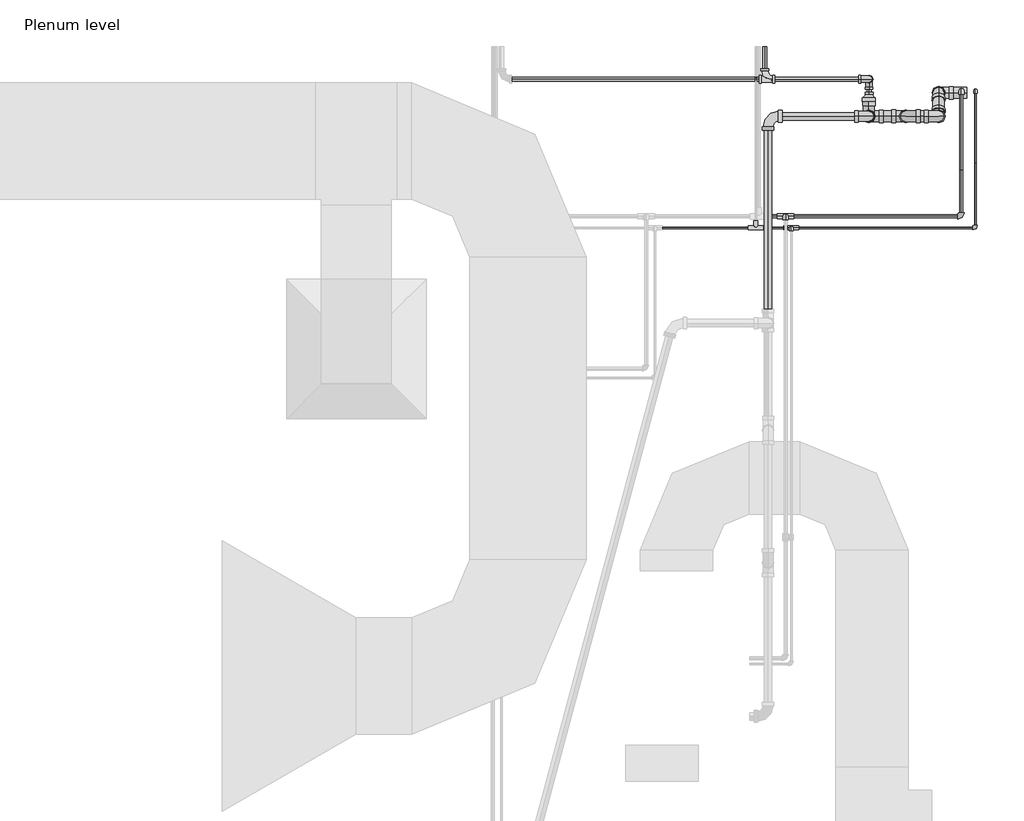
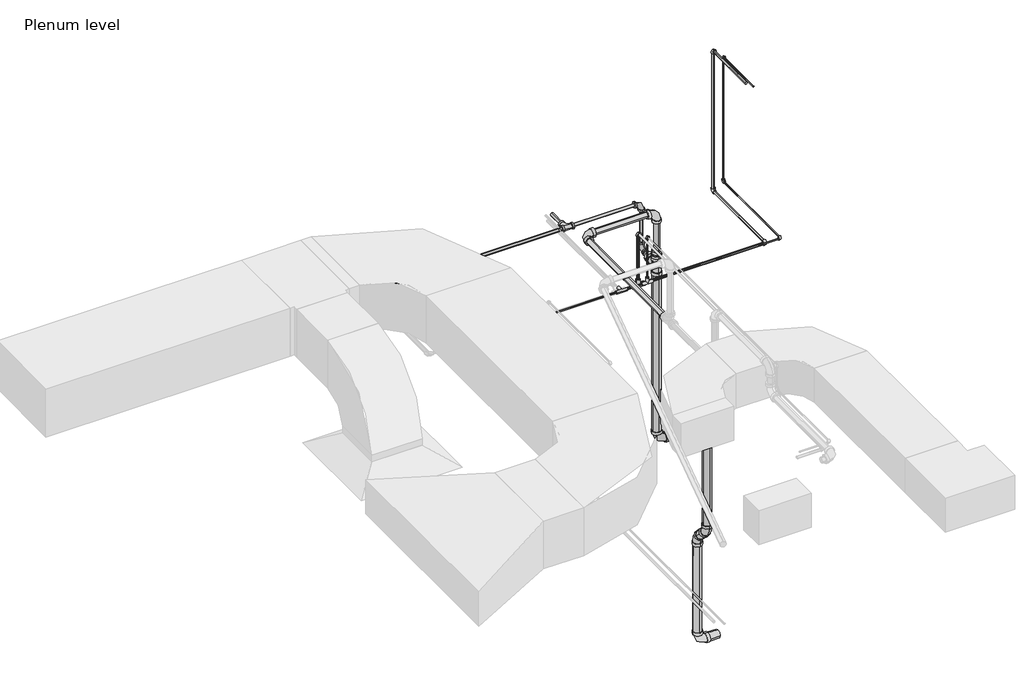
# One storey, part 5 of 5: 29 pipe segments, 26 pipe fittings.
"""IFC4 building model written with IfcOpenShell, lengths in millimetres."""

from ifc_helpers import new_model, si_unit, point, frame, frame_2d, origin, place, context, project, spatial, circle_curve, trimmed, segment, composite_curve, outline, extrude, transform, mapped, element, save
from components import m_bend_pvc_sch_40_dwv_standard_738aab8b, m_bend_pvc_sch_40_dwv_standard_a6d4ec87, m_bend_pvc_sch_40_dwv_standard_04e582cf, m_bend_pvc_sch_40_dwv_standard_6ab8a483, m_bend_pvc_sch_40_dwv_standard_2b68841f, m_bend_pvc_sch_40_dwv_standard_59f4505f, m_elbow_welded_generic_standard_3d1f096c, m_elbow_welded_generic_standard_8e0ccdf9, m_reducer_pvc_sch_40_dwv_standard_d6aa1886, m_reducer_pvc_sch_40_dwv_standard_bae070a7, m_tee_welded_generic_standard_d48cdf89, m_tee_welded_generic_standard_757b4df2, m_tee_sanitary_pvc_sch_40_dwv_standard_2f9d04e6, m_tee_sanitary_pvc_sch_40_dwv_standard_0d87e33f

model = new_model("IFC4")

# Units and contexts
model_context = context("Model", 3, world=origin())
ifc_project = project(units=[si_unit("LENGTHUNIT", "METRE", prefix="MILLI")], contexts=[model_context])

# Site, building, storey
site = spatial("IfcSite", under=ifc_project)
building = spatial("IfcBuilding", under=site)
storey = spatial("IfcBuildingStorey", under=building, Name="Plenum level", Elevation=2500.0)

# Pipe fittings
placement = place(None, origin())
m_bend_pvc_sch_40_dwv_standard_shape = m_bend_pvc_sch_40_dwv_standard_738aab8b(model_context)
element("IfcPipeFitting", 1, ObjectType="M_Bend - PVC - Sch 40 - DWV : Standard", at=placement, inside=storey, context=model_context, shape_type="MappedRepresentation", body=[
    mapped(m_bend_pvc_sch_40_dwv_standard_shape, transform((-9859.3605942, 544.5675672, 1220.3002), x_axis=(0.0, 0.0, -1.0), y_axis=(1.0, 0.0, 0.0), z_axis=(0.0, -1.0, 0.0))),
])
element("IfcPipeFitting", 2, ObjectType="M_Bend - PVC - Sch 40 - DWV : Standard", at=placement, inside=storey, context=model_context, shape_type="MappedRepresentation", body=[
    mapped(m_bend_pvc_sch_40_dwv_standard_shape, transform((-9699.3605942, 544.5675672, 1220.3002), x_axis=(1.0, 0.0, 0.0), y_axis=(0.0, 0.0, 1.0), z_axis=(0.0, -1.0, 0.0))),
])
element("IfcPipeFitting", 3, ObjectType="M_Bend - PVC - Sch 40 - DWV : Standard", at=placement, inside=storey, context=model_context, shape_type="MappedRepresentation", body=[
    mapped(m_bend_pvc_sch_40_dwv_standard_shape, transform((-9699.3605942, 544.5675672, 1520.3002), x_axis=(0.0, 0.0, 1.0), y_axis=(1.0, 0.0, 0.0), z_axis=(0.0, 1.0, 0.0))),
])
element("IfcPipeFitting", 4, ObjectType="M_Bend - PVC - Sch 40 - DWV : Standard", at=placement, inside=storey, context=model_context, shape_type="MappedRepresentation", body=[
    mapped(m_bend_pvc_sch_40_dwv_standard_shape, transform((-9559.3605942, 544.5675672, 1520.3002), x_axis=(1.0, 0.0, 0.0), y_axis=(0.0, 0.0, -1.0), z_axis=(0.0, 1.0, 0.0))),
])
m_bend_pvc_sch_40_dwv_standard_2_shape = m_bend_pvc_sch_40_dwv_standard_a6d4ec87(model_context)
element("IfcPipeFitting", 5, ObjectType="M_Bend - PVC - Sch 40 - DWV : Standard", at=placement, inside=storey, context=model_context, shape_type="MappedRepresentation", body=[
    mapped(m_bend_pvc_sch_40_dwv_standard_2_shape, transform((-9857.7733271, 704.5675761, 2607.2), x_axis=(1.0, 0.0, 0.0), y_axis=(0.0, 0.0, -1.0), z_axis=(0.0, 1.0, 0.0))),
])
element("IfcPipeFitting", 6, ObjectType="M_Bend - PVC - Sch 40 - DWV : Standard", at=placement, inside=storey, context=model_context, shape_type="MappedRepresentation", body=[
    mapped(m_bend_pvc_sch_40_dwv_standard_2_shape, transform((-9857.7733271, 704.5675761, 2322.2), x_axis=(0.0, 0.0, -1.0), y_axis=(0.0, -1.0, 0.0), z_axis=(-1.0, 0.0, 0.0))),
])
m_bend_pvc_sch_40_dwv_standard_3_shape = m_bend_pvc_sch_40_dwv_standard_04e582cf(model_context)
element("IfcPipeFitting", 7, ObjectType="M_Bend - PVC - Sch 40 - DWV : Standard", at=placement, inside=storey, context=model_context, shape_type="MappedRepresentation", body=[
    mapped(m_bend_pvc_sch_40_dwv_standard_3_shape, transform((-9859.3605942, 544.5675672, 2650.0), x_axis=(0.0, 0.0, 1.0), y_axis=(-1.0, 0.0, 0.0), z_axis=(0.0, -1.0, 0.0))),
])
element("IfcPipeFitting", 8, ObjectType="M_Bend - PVC - Sch 40 - DWV : Standard", at=placement, inside=storey, context=model_context, shape_type="MappedRepresentation", body=[
    mapped(m_bend_pvc_sch_40_dwv_standard_3_shape, transform((-10292.1201033, 544.5675672, 2650.0), x_axis=(-1.0, 0.0, 0.0), y_axis=(0.0, -1.0, 0.0), z_axis=(0.0, 0.0, 1.0))),
])
m_bend_pvc_sch_40_dwv_standard_4_shape = m_bend_pvc_sch_40_dwv_standard_6ab8a483(model_context)
element("IfcPipeFitting", 9, ObjectType="M_Bend - PVC - Sch 40 - DWV : Standard", at=placement, inside=storey, context=model_context, shape_type="MappedRepresentation", body=[
    mapped(m_bend_pvc_sch_40_dwv_standard_4_shape, transform((-9559.2948768, 544.5675672, 545.787891), x_axis=(7.201014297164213e-05, 0.0, -0.9999999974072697), y_axis=(0.001133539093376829, 0.9999993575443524, 8.162631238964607e-08), z_axis=(0.9999993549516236, -0.0011335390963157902, 7.201009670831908e-05))),
])
m_bend_pvc_sch_40_dwv_standard_5_shape = m_bend_pvc_sch_40_dwv_standard_2b68841f(model_context)
element("IfcPipeFitting", 10, ObjectType="M_Bend - PVC - Sch 40 - DWV : Standard", at=placement, inside=storey, context=model_context, shape_type="MappedRepresentation", body=[
    mapped(m_bend_pvc_sch_40_dwv_standard_5_shape, transform((-9559.1726284, 645.9722675, 444.3832644), x_axis=(0.0008524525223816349, 0.7071067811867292, -0.7071062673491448), y_axis=(0.0008524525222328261, -0.707106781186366, -0.7071062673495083), z_axis=(-0.9999992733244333, 0.0, -0.0012055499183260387))),
])
m_bend_pvc_sch_40_dwv_standard_6_shape = m_bend_pvc_sch_40_dwv_standard_59f4505f(model_context)
element("IfcPipeFitting", 11, ObjectType="M_Bend - PVC - Sch 40 - DWV : Standard", at=placement, inside=storey, context=model_context, shape_type="MappedRepresentation", body=[
    mapped(m_bend_pvc_sch_40_dwv_standard_6_shape, transform((-9558.3895365, 645.9722675, -205.1886237), x_axis=(-1.0, 0.0, 0.0), y_axis=(0.0, 0.0, 1.0), z_axis=(0.0, 1.0, 0.0))),
])
m_elbow_welded_generic_standard_shape = m_elbow_welded_generic_standard_3d1f096c(model_context)
element("IfcPipeFitting", 12, ObjectType="M_Elbow - Welded - Generic : Standard", at=placement, inside=storey, context=model_context, shape_type="MappedRepresentation", body=[
    mapped(m_elbow_welded_generic_standard_shape, transform((-10217.1201033, 114.5675672, 2900.0), x_axis=(0.0, 0.0, 1.0), y_axis=(0.0, -1.0, 0.0), z_axis=(1.0, 0.0, 0.0))),
])
element("IfcPipeFitting", 13, ObjectType="M_Elbow - Welded - Generic : Standard", at=placement, inside=storey, context=model_context, shape_type="MappedRepresentation", body=[
    mapped(m_elbow_welded_generic_standard_shape, transform((-9460.9171658, 114.5675672, 2575.4), x_axis=(1.0, 0.0, 0.0), y_axis=(0.0, 1.0, 0.0), z_axis=(0.0, 0.0, 1.0))),
])
element("IfcPipeFitting", 14, ObjectType="M_Elbow - Welded - Generic : Standard", at=placement, inside=storey, context=model_context, shape_type="MappedRepresentation", body=[
    mapped(m_elbow_welded_generic_standard_shape, transform((-9460.9171658, 654.5675672, 2575.4), x_axis=(0.0, 1.0, 0.0), y_axis=(0.0, 0.0, 1.0), z_axis=(1.0, 0.0, 0.0))),
])
element("IfcPipeFitting", 15, ObjectType="M_Elbow - Welded - Generic : Standard", at=placement, inside=storey, context=model_context, shape_type="MappedRepresentation", body=[
    mapped(m_elbow_welded_generic_standard_shape, transform((-9460.9171658, 654.5675672, 3455.4), x_axis=(0.0, 0.0, 1.0), y_axis=(0.0, -1.0, 0.0), z_axis=(1.0, 0.0, 0.0))),
])
m_elbow_welded_generic_standard_2_shape = m_elbow_welded_generic_standard_8e0ccdf9(model_context)
element("IfcPipeFitting", 16, ObjectType="M_Elbow - Welded - Generic : Standard", at=placement, inside=storey, context=model_context, shape_type="MappedRepresentation", body=[
    mapped(m_elbow_welded_generic_standard_2_shape, transform((-10192.1201033, 64.5675672, 2900.0), x_axis=(0.0, 0.0, 1.0), y_axis=(0.0, -1.0, 0.0), z_axis=(1.0, 0.0, 0.0))),
])
element("IfcPipeFitting", 17, ObjectType="M_Elbow - Welded - Generic : Standard", at=placement, inside=storey, context=model_context, shape_type="MappedRepresentation", body=[
    mapped(m_elbow_welded_generic_standard_2_shape, transform((-9400.3901658, 64.5675672, 2613.5), x_axis=(1.0, 0.0, 0.0), y_axis=(0.0, 1.0, 0.0), z_axis=(0.0, 0.0, 1.0))),
])
element("IfcPipeFitting", 18, ObjectType="M_Elbow - Welded - Generic : Standard", at=placement, inside=storey, context=model_context, shape_type="MappedRepresentation", body=[
    mapped(m_elbow_welded_generic_standard_2_shape, transform((-9400.3901658, 654.5675672, 2613.5), x_axis=(0.0, 1.0, 0.0), y_axis=(0.0, 0.0, 1.0), z_axis=(1.0, 0.0, 0.0))),
])
element("IfcPipeFitting", 19, ObjectType="M_Elbow - Welded - Generic : Standard", at=placement, inside=storey, context=model_context, shape_type="MappedRepresentation", body=[
    mapped(m_elbow_welded_generic_standard_2_shape, transform((-9400.3901658, 654.5675672, 3393.5), x_axis=(0.0, 0.0, 1.0), y_axis=(0.0, -1.0, 0.0), z_axis=(1.0, 0.0, 0.0))),
])
m_reducer_pvc_sch_40_dwv_standard_shape = m_reducer_pvc_sch_40_dwv_standard_d6aa1886(model_context)
element("IfcPipeFitting", 20, ObjectType="M_Reducer - PVC - Sch 40 - DWV : Standard", at=placement, inside=storey, context=model_context, shape_type="MappedRepresentation", body=[
    mapped(m_reducer_pvc_sch_40_dwv_standard_shape, transform((-9859.3605942, 544.5675672, 2365.0498), x_axis=(0.0, 0.0, 1.0), y_axis=(0.0, -1.0, 0.0), z_axis=(1.0, 0.0, 0.0))),
])
m_reducer_pvc_sch_40_dwv_standard_2_shape = m_reducer_pvc_sch_40_dwv_standard_bae070a7(model_context)
element("IfcPipeFitting", 21, ObjectType="M_Reducer - PVC - Sch 40 - DWV : Standard", at=placement, inside=storey, context=model_context, shape_type="MappedRepresentation", body=[
    mapped(m_reducer_pvc_sch_40_dwv_standard_2_shape, transform((-9859.3605942, 606.4673672, 2322.2), x_axis=(0.0, 1.0, 0.0), y_axis=(-1.0, 0.0, 0.0), z_axis=(0.0, 0.0, 1.0))),
])
m_tee_welded_generic_standard_shape = m_tee_welded_generic_standard_d48cdf89(model_context)
element("IfcPipeFitting", 22, ObjectType="M_Tee - Welded - Generic : Standard", at=placement, inside=storey, context=model_context, shape_type="MappedRepresentation", body=[
    mapped(m_tee_welded_generic_standard_shape, transform((-10217.1201033, 114.5675672, 2575.4), x_axis=(-1.0, 0.0, 0.0), y_axis=(0.0, 0.0, -1.0), z_axis=(0.0, -1.0, 0.0))),
])
m_tee_welded_generic_standard_2_shape = m_tee_welded_generic_standard_757b4df2(model_context)
element("IfcPipeFitting", 23, ObjectType="M_Tee - Welded - Generic : Standard", at=placement, inside=storey, context=model_context, shape_type="MappedRepresentation", body=[
    mapped(m_tee_welded_generic_standard_2_shape, transform((-10344.7873896, 64.5675672, 2613.5), x_axis=(-1.0, 0.0, 0.0), y_axis=(0.0, -1.0, 0.0), z_axis=(0.0, 0.0, 1.0))),
])
element("IfcPipeFitting", 24, ObjectType="M_Tee - Welded - Generic : Standard", at=placement, inside=storey, context=model_context, shape_type="MappedRepresentation", body=[
    mapped(m_tee_welded_generic_standard_2_shape, transform((-10192.1201033, 64.5675672, 2613.5), x_axis=(-1.0, 0.0, 0.0), y_axis=(0.0, 0.0, -1.0), z_axis=(0.0, -1.0, 0.0))),
])
m_tee_sanitary_pvc_sch_40_dwv_standard_shape = m_tee_sanitary_pvc_sch_40_dwv_standard_2f9d04e6(model_context)
element("IfcPipeFitting", 25, ObjectType="M_Tee Sanitary - PVC - Sch 40 - DWV : Standard", at=placement, inside=storey, context=model_context, shape_type="MappedRepresentation", body=[
    mapped(m_tee_sanitary_pvc_sch_40_dwv_standard_shape, transform((-10306.6873896, 704.5675761, 2607.2), x_axis=(-1.0, 0.0, 0.0), y_axis=(0.0, -1.0, 0.0), z_axis=(0.0, 0.0, 1.0))),
])
m_tee_sanitary_pvc_sch_40_dwv_standard_2_shape = m_tee_sanitary_pvc_sch_40_dwv_standard_0d87e33f(model_context)
element("IfcPipeFitting", 26, ObjectType="M_Tee Sanitary - PVC - Sch 40 - DWV : Standard", at=placement, inside=storey, context=model_context, shape_type="MappedRepresentation", body=[
    mapped(m_tee_sanitary_pvc_sch_40_dwv_standard_2_shape, transform((-9859.3605942, 544.5675672, 2322.2), x_axis=(0.0, 0.0, 1.0), y_axis=(0.0, -1.0, 0.0), z_axis=(1.0, 0.0, 0.0))),
])

# Pipe segments
element("IfcPipeSegment", 27, ObjectType="COPPER PIPE", at=placement, inside=storey, context=model_context, shape_type="SweptSolid", body=[
    extrude(outline(composite_curve([segment(trimmed(circle_curve(frame_2d((114.5675672, 2575.4)), 6.5), [point((108.0675672, 2575.4))], [point((114.5675672, 2581.9))], False, "CARTESIAN"), True, "CONTINUOUS"), segment(trimmed(circle_curve(frame_2d((114.5675672, 2575.4)), 6.5), [point((114.5675672, 2581.9))], [point((121.0675672, 2575.4))], False, "CARTESIAN"), True, "CONTINUOUS"), segment(trimmed(circle_curve(frame_2d((114.5675672, 2575.4)), 6.5), [point((121.0675672, 2575.4))], [point((114.5675672, 2568.9))], False, "CARTESIAN"), True, "CONTINUOUS"), segment(trimmed(circle_curve(frame_2d((114.5675672, 2575.4)), 6.5), [point((114.5675672, 2568.9))], [point((108.0675672, 2575.4))], False, "CARTESIAN"), True, "CONTINUOUS")], self_intersect=False)), frame((-10180.9171658, 0.0, 0.0), z_axis=(1.0, 0.0, 0.0), x_axis=(0.0, 1.0, 0.0)), (0.0, 0.0, 1.0), 705.2410156),
])
element("IfcPipeSegment", 28, ObjectType="COPPER PIPE", at=placement, inside=storey, context=model_context, shape_type="SweptSolid", body=[
    extrude(outline(composite_curve([segment(trimmed(circle_curve(frame_2d((64.5675672, 2613.5)), 3.5), [point((61.0675672, 2613.5))], [point((64.5675672, 2617.0))], False, "CARTESIAN"), True, "CONTINUOUS"), segment(trimmed(circle_curve(frame_2d((64.5675672, 2613.5)), 3.5), [point((64.5675672, 2617.0))], [point((68.0675672, 2613.5))], False, "CARTESIAN"), True, "CONTINUOUS"), segment(trimmed(circle_curve(frame_2d((64.5675672, 2613.5)), 3.5), [point((68.0675672, 2613.5))], [point((64.5675672, 2610.0))], False, "CARTESIAN"), True, "CONTINUOUS"), segment(trimmed(circle_curve(frame_2d((64.5675672, 2613.5)), 3.5), [point((64.5675672, 2610.0))], [point((61.0675672, 2613.5))], False, "CARTESIAN"), True, "CONTINUOUS")], self_intersect=False)), frame((-10160.3901658, 0.0, 0.0), z_axis=(1.0, 0.0, 0.0), x_axis=(0.0, 1.0, 0.0)), (0.0, 0.0, 1.0), 748.3910156),
])
element("IfcPipeSegment", 29, ObjectType="COPPER PIPE", at=placement, inside=storey, context=model_context, shape_type="SweptSolid", body=[
    extrude(outline(composite_curve([segment(trimmed(circle_curve(frame_2d((64.5675672, 2613.5)), 3.5), [point((61.0675672, 2613.5))], [point((64.5675672, 2617.0))], False, "CARTESIAN"), True, "CONTINUOUS"), segment(trimmed(circle_curve(frame_2d((64.5675672, 2613.5)), 3.5), [point((64.5675672, 2617.0))], [point((68.0675672, 2613.5))], False, "CARTESIAN"), True, "CONTINUOUS"), segment(trimmed(circle_curve(frame_2d((64.5675672, 2613.5)), 3.5), [point((68.0675672, 2613.5))], [point((64.5675672, 2610.0))], False, "CARTESIAN"), True, "CONTINUOUS"), segment(trimmed(circle_curve(frame_2d((64.5675672, 2613.5)), 3.5), [point((64.5675672, 2610.0))], [point((61.0675672, 2613.5))], False, "CARTESIAN"), True, "CONTINUOUS")], self_intersect=False)), frame((-10746.9574521, 0.0, 0.0), z_axis=(1.0, 0.0, 0.0), x_axis=(0.0, 1.0, 0.0)), (0.0, 0.0, 1.0), 370.440125),
])
element("IfcPipeSegment", 30, ObjectType="COPPER PIPE", at=placement, inside=storey, context=model_context, shape_type="SweptSolid", body=[
    extrude(outline(composite_curve([segment(trimmed(circle_curve(frame_2d((-10217.1201033, 114.5675672)), 6.5), [point((-10223.6201033, 114.5675672))], [point((-10217.1201033, 121.0675672))], False, "CARTESIAN"), True, "CONTINUOUS"), segment(trimmed(circle_curve(frame_2d((-10217.1201033, 114.5675672)), 6.5), [point((-10217.1201033, 121.0675672))], [point((-10210.6201033, 114.5675672))], False, "CARTESIAN"), True, "CONTINUOUS"), segment(trimmed(circle_curve(frame_2d((-10217.1201033, 114.5675672)), 6.5), [point((-10210.6201033, 114.5675672))], [point((-10217.1201033, 108.0675672))], False, "CARTESIAN"), True, "CONTINUOUS"), segment(trimmed(circle_curve(frame_2d((-10217.1201033, 114.5675672)), 6.5), [point((-10217.1201033, 108.0675672))], [point((-10223.6201033, 114.5675672))], False, "CARTESIAN"), True, "CONTINUOUS")], self_intersect=False)), frame((0.0, 0.0, 2611.6029375), z_axis=(0.0, 0.0, 1.0), x_axis=(1.0, 0.0, 0.0)), (0.0, 0.0, 1.0), 273.6380781),
])
element("IfcPipeSegment", 31, ObjectType="COPPER PIPE", at=placement, inside=storey, context=model_context, shape_type="SweptSolid", body=[
    extrude(outline(composite_curve([segment(trimmed(circle_curve(frame_2d((114.5675672, 2575.4)), 6.5), [point((108.0675672, 2575.4))], [point((114.5675672, 2581.9))], False, "CARTESIAN"), True, "CONTINUOUS"), segment(trimmed(circle_curve(frame_2d((114.5675672, 2575.4)), 6.5), [point((114.5675672, 2581.9))], [point((121.0675672, 2575.4))], False, "CARTESIAN"), True, "CONTINUOUS"), segment(trimmed(circle_curve(frame_2d((114.5675672, 2575.4)), 6.5), [point((121.0675672, 2575.4))], [point((114.5675672, 2568.9))], False, "CARTESIAN"), True, "CONTINUOUS"), segment(trimmed(circle_curve(frame_2d((114.5675672, 2575.4)), 6.5), [point((114.5675672, 2568.9))], [point((108.0675672, 2575.4))], False, "CARTESIAN"), True, "CONTINUOUS")], self_intersect=False)), frame((-10295.8844521, 0.0, 0.0), z_axis=(1.0, 0.0, 0.0), x_axis=(0.0, 1.0, 0.0)), (0.0, 0.0, 1.0), 42.5614113),
])
element("IfcPipeSegment", 32, ObjectType="COPPER PIPE", at=placement, inside=storey, context=model_context, shape_type="SweptSolid", body=[
    extrude(outline(composite_curve([segment(trimmed(circle_curve(frame_2d((-10192.1201033, 64.5675672)), 3.5), [point((-10195.6201033, 64.5675672))], [point((-10192.1201033, 68.0675672))], False, "CARTESIAN"), True, "CONTINUOUS"), segment(trimmed(circle_curve(frame_2d((-10192.1201033, 64.5675672)), 3.5), [point((-10192.1201033, 68.0675672))], [point((-10188.6201033, 64.5675672))], False, "CARTESIAN"), True, "CONTINUOUS"), segment(trimmed(circle_curve(frame_2d((-10192.1201033, 64.5675672)), 3.5), [point((-10188.6201033, 64.5675672))], [point((-10192.1201033, 61.0675672))], False, "CARTESIAN"), True, "CONTINUOUS"), segment(trimmed(circle_curve(frame_2d((-10192.1201033, 64.5675672)), 3.5), [point((-10192.1201033, 61.0675672))], [point((-10195.6201033, 64.5675672))], False, "CARTESIAN"), True, "CONTINUOUS")], self_intersect=False)), frame((0.0, 0.0, 2645.2299375), z_axis=(0.0, 0.0, 1.0), x_axis=(1.0, 0.0, 0.0)), (0.0, 0.0, 1.0), 243.1610781),
])
element("IfcPipeSegment", 33, ObjectType="COPPER PIPE", at=placement, inside=storey, context=model_context, shape_type="SweptSolid", body=[
    extrude(outline(composite_curve([segment(trimmed(circle_curve(frame_2d((64.5675672, 2613.5)), 3.5), [point((61.0675672, 2613.5))], [point((64.5675672, 2617.0))], False, "CARTESIAN"), True, "CONTINUOUS"), segment(trimmed(circle_curve(frame_2d((64.5675672, 2613.5)), 3.5), [point((64.5675672, 2617.0))], [point((68.0675672, 2613.5))], False, "CARTESIAN"), True, "CONTINUOUS"), segment(trimmed(circle_curve(frame_2d((64.5675672, 2613.5)), 3.5), [point((68.0675672, 2613.5))], [point((64.5675672, 2610.0))], False, "CARTESIAN"), True, "CONTINUOUS"), segment(trimmed(circle_curve(frame_2d((64.5675672, 2613.5)), 3.5), [point((64.5675672, 2610.0))], [point((61.0675672, 2613.5))], False, "CARTESIAN"), True, "CONTINUOUS")], self_intersect=False)), frame((-10313.0574521, 0.0, 0.0), z_axis=(1.0, 0.0, 0.0), x_axis=(0.0, 1.0, 0.0)), (0.0, 0.0, 1.0), 89.2074113),
])
element("IfcPipeSegment", 34, ObjectType="COPPER PIPE", at=placement, inside=storey, context=model_context, shape_type="SweptSolid", body=[
    extrude(outline(composite_curve([segment(trimmed(circle_curve(frame_2d((2575.4, -9460.9171658)), 6.5), [point((2575.4, -9454.4171658))], [point((2581.9, -9460.9171658))], False, "CARTESIAN"), True, "CONTINUOUS"), segment(trimmed(circle_curve(frame_2d((2575.4, -9460.9171658)), 6.5), [point((2581.9, -9460.9171658))], [point((2575.4, -9467.4171658))], False, "CARTESIAN"), True, "CONTINUOUS"), segment(trimmed(circle_curve(frame_2d((2575.4, -9460.9171658)), 6.5), [point((2575.4, -9467.4171658))], [point((2568.9, -9460.9171658))], False, "CARTESIAN"), True, "CONTINUOUS"), segment(trimmed(circle_curve(frame_2d((2575.4, -9460.9171658)), 6.5), [point((2568.9, -9460.9171658))], [point((2575.4, -9454.4171658))], False, "CARTESIAN"), True, "CONTINUOUS")], self_intersect=False)), frame((0.0, 129.3265516, 0.0), z_axis=(0.0, 1.0, 0.0), x_axis=(0.0, 0.0, 1.0)), (0.0, 0.0, 1.0), 510.4820313),
])
element("IfcPipeSegment", 35, ObjectType="COPPER PIPE", at=placement, inside=storey, context=model_context, shape_type="SweptSolid", body=[
    extrude(outline(composite_curve([segment(trimmed(circle_curve(frame_2d((2613.5, -9400.3901658)), 3.5), [point((2613.5, -9396.8901658))], [point((2617.0, -9400.3901658))], False, "CARTESIAN"), True, "CONTINUOUS"), segment(trimmed(circle_curve(frame_2d((2613.5, -9400.3901658)), 3.5), [point((2617.0, -9400.3901658))], [point((2613.5, -9403.8901658))], False, "CARTESIAN"), True, "CONTINUOUS"), segment(trimmed(circle_curve(frame_2d((2613.5, -9400.3901658)), 3.5), [point((2613.5, -9403.8901658))], [point((2610.0, -9400.3901658))], False, "CARTESIAN"), True, "CONTINUOUS"), segment(trimmed(circle_curve(frame_2d((2613.5, -9400.3901658)), 3.5), [point((2610.0, -9400.3901658))], [point((2613.5, -9396.8901658))], False, "CARTESIAN"), True, "CONTINUOUS")], self_intersect=False)), frame((0.0, 76.1765516, 0.0), z_axis=(0.0, 1.0, 0.0), x_axis=(0.0, 0.0, 1.0)), (0.0, 0.0, 1.0), 566.7820312),
])
element("IfcPipeSegment", 36, ObjectType="COPPER PIPE", at=placement, inside=storey, context=model_context, shape_type="SweptSolid", body=[
    extrude(outline(composite_curve([segment(trimmed(circle_curve(frame_2d((-9400.3901658, 654.5675672)), 3.5), [point((-9403.8901658, 654.5675672))], [point((-9400.3901658, 658.0675672))], False, "CARTESIAN"), True, "CONTINUOUS"), segment(trimmed(circle_curve(frame_2d((-9400.3901658, 654.5675672)), 3.5), [point((-9400.3901658, 658.0675672))], [point((-9396.8901658, 654.5675672))], False, "CARTESIAN"), True, "CONTINUOUS"), segment(trimmed(circle_curve(frame_2d((-9400.3901658, 654.5675672)), 3.5), [point((-9396.8901658, 654.5675672))], [point((-9400.3901658, 651.0675672))], False, "CARTESIAN"), True, "CONTINUOUS"), segment(trimmed(circle_curve(frame_2d((-9400.3901658, 654.5675672)), 3.5), [point((-9400.3901658, 651.0675672))], [point((-9403.8901658, 654.5675672))], False, "CARTESIAN"), True, "CONTINUOUS")], self_intersect=False)), frame((0.0, 0.0, 2625.1089844), z_axis=(0.0, 0.0, 1.0), x_axis=(1.0, 0.0, 0.0)), (0.0, 0.0, 1.0), 756.7820313),
])
element("IfcPipeSegment", 37, ObjectType="COPPER PIPE", at=placement, inside=storey, context=model_context, shape_type="SweptSolid", body=[
    extrude(outline(composite_curve([segment(trimmed(circle_curve(frame_2d((-9460.9171658, 654.5675672)), 6.5), [point((-9467.4171658, 654.5675672))], [point((-9460.9171658, 661.0675672))], False, "CARTESIAN"), True, "CONTINUOUS"), segment(trimmed(circle_curve(frame_2d((-9460.9171658, 654.5675672)), 6.5), [point((-9460.9171658, 661.0675672))], [point((-9454.4171658, 654.5675672))], False, "CARTESIAN"), True, "CONTINUOUS"), segment(trimmed(circle_curve(frame_2d((-9460.9171658, 654.5675672)), 6.5), [point((-9454.4171658, 654.5675672))], [point((-9460.9171658, 648.0675672))], False, "CARTESIAN"), True, "CONTINUOUS"), segment(trimmed(circle_curve(frame_2d((-9460.9171658, 654.5675672)), 6.5), [point((-9460.9171658, 648.0675672))], [point((-9467.4171658, 654.5675672))], False, "CARTESIAN"), True, "CONTINUOUS")], self_intersect=False)), frame((0.0, 0.0, 2590.1589844), z_axis=(0.0, 0.0, 1.0), x_axis=(1.0, 0.0, 0.0)), (0.0, 0.0, 1.0), 850.4820313),
])
element("IfcPipeSegment", 38, ObjectType="COPPER PIPE", at=placement, inside=storey, context=model_context, shape_type="SweptSolid", body=[
    extrude(outline(composite_curve([segment(trimmed(circle_curve(frame_2d((3455.4, -9460.9171658)), 6.5), [point((3455.4, -9467.4171658))], [point((3448.9, -9460.9171658))], False, "CARTESIAN"), True, "CONTINUOUS"), segment(trimmed(circle_curve(frame_2d((3455.4, -9460.9171658)), 6.5), [point((3448.9, -9460.9171658))], [point((3455.4, -9454.4171658))], False, "CARTESIAN"), True, "CONTINUOUS"), segment(trimmed(circle_curve(frame_2d((3455.4, -9460.9171658)), 6.5), [point((3455.4, -9454.4171658))], [point((3461.9, -9460.9171658))], False, "CARTESIAN"), True, "CONTINUOUS"), segment(trimmed(circle_curve(frame_2d((3455.4, -9460.9171658)), 6.5), [point((3461.9, -9460.9171658))], [point((3455.4, -9467.4171658))], False, "CARTESIAN"), True, "CONTINUOUS")], self_intersect=False)), frame((0.0, 314.5675672, 0.0), z_axis=(0.0, 1.0, 0.0), x_axis=(0.0, 0.0, 1.0)), (0.0, 0.0, 1.0), 325.2410156),
])
element("IfcPipeSegment", 39, ObjectType="COPPER PIPE", at=placement, inside=storey, context=model_context, shape_type="SweptSolid", body=[
    extrude(outline(composite_curve([segment(trimmed(circle_curve(frame_2d((3393.5, -9400.3901658)), 3.5), [point((3393.5, -9403.8901658))], [point((3390.0, -9400.3901658))], False, "CARTESIAN"), True, "CONTINUOUS"), segment(trimmed(circle_curve(frame_2d((3393.5, -9400.3901658)), 3.5), [point((3390.0, -9400.3901658))], [point((3393.5, -9396.8901658))], False, "CARTESIAN"), True, "CONTINUOUS"), segment(trimmed(circle_curve(frame_2d((3393.5, -9400.3901658)), 3.5), [point((3393.5, -9396.8901658))], [point((3397.0, -9400.3901658))], False, "CARTESIAN"), True, "CONTINUOUS"), segment(trimmed(circle_curve(frame_2d((3393.5, -9400.3901658)), 3.5), [point((3397.0, -9400.3901658))], [point((3393.5, -9403.8901658))], False, "CARTESIAN"), True, "CONTINUOUS")], self_intersect=False)), frame((0.0, 344.5675672, 0.0), z_axis=(0.0, 1.0, 0.0), x_axis=(0.0, 0.0, 1.0)), (0.0, 0.0, 1.0), 298.3910156),
])
element("IfcPipeSegment", 40, ObjectType="PVC - DWV", at=placement, inside=storey, context=model_context, shape_type="SweptSolid", body=[
    extrude(outline(composite_curve([segment(trimmed(circle_curve(frame_2d((0.0, -9.0)), 9.0), [point((0.0, 0.0))], [point((9.0, -9.0))], False, "CARTESIAN"), True, "CONTINUOUS"), segment(trimmed(circle_curve(frame_2d((0.0, -9.0)), 9.0), [point((9.0, -9.0))], [point((0.0, -18.0))], False, "CARTESIAN"), True, "CONTINUOUS"), segment(trimmed(circle_curve(frame_2d((0.0, -9.0)), 9.0), [point((0.0, -18.0))], [point((-9.0, -9.0))], False, "CARTESIAN"), True, "CONTINUOUS"), segment(trimmed(circle_curve(frame_2d((0.0, -9.0)), 9.0), [point((-9.0, -9.0))], [point((0.0, 0.0))], False, "CARTESIAN"), True, "CONTINUOUS")], self_intersect=False)), frame((-10315.6873896, 748.4816386, 2607.2), z_axis=(1.2633449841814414e-12, 1.0, 0.0), x_axis=(0.0, 0.0, -1.0)), (0.0, 0.0, 1.0), 96.0859286),
])
element("IfcPipeSegment", 41, ObjectType="PVC - DWV", at=placement, inside=storey, context=model_context, shape_type="SweptSolid", body=[
    extrude(outline(composite_curve([segment(trimmed(circle_curve(frame_2d((704.5675761, 2607.2)), 9.0), [point((695.5675761, 2607.2))], [point((704.5675761, 2616.2))], False, "CARTESIAN"), True, "CONTINUOUS"), segment(trimmed(circle_curve(frame_2d((704.5675761, 2607.2)), 9.0), [point((704.5675761, 2616.2))], [point((713.5675761, 2607.2))], False, "CARTESIAN"), True, "CONTINUOUS"), segment(trimmed(circle_curve(frame_2d((704.5675761, 2607.2)), 9.0), [point((713.5675761, 2607.2))], [point((704.5675761, 2598.2))], False, "CARTESIAN"), True, "CONTINUOUS"), segment(trimmed(circle_curve(frame_2d((704.5675761, 2607.2)), 9.0), [point((704.5675761, 2598.2))], [point((695.5675761, 2607.2))], False, "CARTESIAN"), True, "CONTINUOUS")], self_intersect=False)), frame((-11394.7733271, 0.0, 0.0), z_axis=(1.0, 0.0, 0.0), x_axis=(0.0, 1.0, 0.0)), (0.0, 0.0, 1.0), 1065.3453125),
])
element("IfcPipeSegment", 42, ObjectType="PVC - DWV", at=placement, inside=storey, context=model_context, shape_type="SweptSolid", body=[
    extrude(outline(composite_curve([segment(trimmed(circle_curve(frame_2d((2650.0, -10292.1201033)), 16.25), [point((2650.0, -10275.8701033))], [point((2666.25, -10292.1201033))], False, "CARTESIAN"), True, "CONTINUOUS"), segment(trimmed(circle_curve(frame_2d((2650.0, -10292.1201033)), 16.25), [point((2666.25, -10292.1201033))], [point((2650.0, -10308.3701033))], False, "CARTESIAN"), True, "CONTINUOUS"), segment(trimmed(circle_curve(frame_2d((2650.0, -10292.1201033)), 16.25), [point((2650.0, -10308.3701033))], [point((2633.75, -10292.1201033))], False, "CARTESIAN"), True, "CONTINUOUS"), segment(trimmed(circle_curve(frame_2d((2650.0, -10292.1201033)), 16.25), [point((2633.75, -10292.1201033))], [point((2650.0, -10275.8701033))], False, "CARTESIAN"), True, "CONTINUOUS")], self_intersect=False)), frame((0.0, -284.0093211, 0.0), z_axis=(0.0, 1.0, 0.0), x_axis=(0.0, 0.0, 1.0)), (0.0, 0.0, 1.0), 768.0748258),
])
element("IfcPipeSegment", 43, ObjectType="PVC - DWV", at=placement, inside=storey, context=model_context, shape_type="SweptSolid", body=[
    extrude(outline(composite_curve([segment(trimmed(circle_curve(frame_2d((544.5675672, 2650.0)), 16.25), [point((560.8175672, 2650.0))], [point((544.5675672, 2633.75))], False, "CARTESIAN"), True, "CONTINUOUS"), segment(trimmed(circle_curve(frame_2d((544.5675672, 2650.0)), 16.25), [point((544.5675672, 2633.75))], [point((528.3175672, 2650.0))], False, "CARTESIAN"), True, "CONTINUOUS"), segment(trimmed(circle_curve(frame_2d((544.5675672, 2650.0)), 16.25), [point((528.3175672, 2650.0))], [point((544.5675672, 2666.25))], False, "CARTESIAN"), True, "CONTINUOUS"), segment(trimmed(circle_curve(frame_2d((544.5675672, 2650.0)), 16.25), [point((544.5675672, 2666.25))], [point((560.8175672, 2650.0))], False, "CARTESIAN"), True, "CONTINUOUS")], self_intersect=False)), frame((-10231.6180408, 0.0, 0.0), z_axis=(1.0, 0.0, 0.0), x_axis=(0.0, 1.0, 0.0)), (0.0, 0.0, 1.0), 311.7553841),
])
element("IfcPipeSegment", 44, ObjectType="PVC - DWV", at=placement, inside=storey, context=model_context, shape_type="SweptSolid", body=[
    extrude(outline(composite_curve([segment(trimmed(circle_curve(frame_2d((704.5675761, 2607.2)), 9.0), [point((695.5675761, 2607.2))], [point((704.5675761, 2616.2))], False, "CARTESIAN"), True, "CONTINUOUS"), segment(trimmed(circle_curve(frame_2d((704.5675761, 2607.2)), 9.0), [point((704.5675761, 2616.2))], [point((713.5675761, 2607.2))], False, "CARTESIAN"), True, "CONTINUOUS"), segment(trimmed(circle_curve(frame_2d((704.5675761, 2607.2)), 9.0), [point((713.5675761, 2607.2))], [point((704.5675761, 2598.2))], False, "CARTESIAN"), True, "CONTINUOUS"), segment(trimmed(circle_curve(frame_2d((704.5675761, 2607.2)), 9.0), [point((704.5675761, 2598.2))], [point((695.5675761, 2607.2))], False, "CARTESIAN"), True, "CONTINUOUS")], self_intersect=False)), frame((-10262.7733271, 0.0, 0.0), z_axis=(1.0, 0.0, 0.0), x_axis=(0.0, 1.0, 0.0)), (0.0, 0.0, 1.0), 361.0859375),
])
element("IfcPipeSegment", 45, ObjectType="PVC - DWV", at=placement, inside=storey, context=model_context, shape_type="SweptSolid", body=[
    extrude(outline(composite_curve([segment(trimmed(circle_curve(frame_2d((-9859.3605942, 544.5675672)), 24.13), [point((-9835.2305942, 544.5675672))], [point((-9859.3605942, 520.4375672))], False, "CARTESIAN"), True, "CONTINUOUS"), segment(trimmed(circle_curve(frame_2d((-9859.3605942, 544.5675672)), 24.13), [point((-9859.3605942, 520.4375672))], [point((-9883.4905942, 544.5675672))], False, "CARTESIAN"), True, "CONTINUOUS"), segment(trimmed(circle_curve(frame_2d((-9859.3605942, 544.5675672)), 24.13), [point((-9883.4905942, 544.5675672))], [point((-9859.3605942, 568.6975672))], False, "CARTESIAN"), True, "CONTINUOUS"), segment(trimmed(circle_curve(frame_2d((-9859.3605942, 544.5675672)), 24.13), [point((-9859.3605942, 568.6975672))], [point((-9835.2305942, 544.5675672))], False, "CARTESIAN"), True, "CONTINUOUS")], self_intersect=False)), frame((0.0, 0.0, 1282.2), z_axis=(0.0, 0.0, 1.0), x_axis=(1.0, 0.0, 0.0)), (0.0, 0.0, 1.0), 978.1002),
])
element("IfcPipeSegment", 46, ObjectType="PVC - DWV", at=placement, inside=storey, context=model_context, shape_type="SweptSolid", body=[
    extrude(outline(composite_curve([segment(trimmed(circle_curve(frame_2d((-9857.7733271, 704.5675761)), 9.0), [point((-9848.7733271, 704.5675761))], [point((-9857.7733271, 695.5675761))], False, "CARTESIAN"), True, "CONTINUOUS"), segment(trimmed(circle_curve(frame_2d((-9857.7733271, 704.5675761)), 9.0), [point((-9857.7733271, 695.5675761))], [point((-9866.7733271, 704.5675761))], False, "CARTESIAN"), True, "CONTINUOUS"), segment(trimmed(circle_curve(frame_2d((-9857.7733271, 704.5675761)), 9.0), [point((-9866.7733271, 704.5675761))], [point((-9857.7733271, 713.5675761))], False, "CARTESIAN"), True, "CONTINUOUS"), segment(trimmed(circle_curve(frame_2d((-9857.7733271, 704.5675761)), 9.0), [point((-9857.7733271, 713.5675761))], [point((-9848.7733271, 704.5675761))], False, "CARTESIAN"), True, "CONTINUOUS")], self_intersect=False)), frame((0.0, 0.0, 2366.1140625), z_axis=(0.0, 0.0, 1.0), x_axis=(1.0, 0.0, 0.0)), (0.0, 0.0, 1.0), 197.171875),
])
element("IfcPipeSegment", 47, ObjectType="PVC - DWV", at=placement, inside=storey, context=model_context, shape_type="SweptSolid", body=[
    extrude(outline(composite_curve([segment(trimmed(circle_curve(frame_2d((2322.2, -9857.7733271)), 9.0), [point((2322.2, -9848.7733271))], [point((2331.2, -9857.7733271))], False, "CARTESIAN"), True, "CONTINUOUS"), segment(trimmed(circle_curve(frame_2d((2322.2, -9857.7733271)), 9.0), [point((2331.2, -9857.7733271))], [point((2322.2, -9866.7733271))], False, "CARTESIAN"), True, "CONTINUOUS"), segment(trimmed(circle_curve(frame_2d((2322.2, -9857.7733271)), 9.0), [point((2322.2, -9866.7733271))], [point((2313.2, -9857.7733271))], False, "CARTESIAN"), True, "CONTINUOUS"), segment(trimmed(circle_curve(frame_2d((2322.2, -9857.7733271)), 9.0), [point((2313.2, -9857.7733271))], [point((2322.2, -9848.7733271))], False, "CARTESIAN"), True, "CONTINUOUS")], self_intersect=False)), frame((0.0, 647.238461, 0.0), z_axis=(0.0, 1.0, 0.0), x_axis=(0.0, 0.0, 1.0)), (0.0, 0.0, 1.0), 13.4150527),
])
element("IfcPipeSegment", 48, ObjectType="PVC - DWV", at=placement, inside=storey, context=model_context, shape_type="SweptSolid", body=[
    extrude(outline(composite_curve([segment(trimmed(circle_curve(frame_2d((-9859.3605942, 544.5675672)), 16.25), [point((-9843.1105942, 544.5675672))], [point((-9859.3605942, 528.3175672))], False, "CARTESIAN"), True, "CONTINUOUS"), segment(trimmed(circle_curve(frame_2d((-9859.3605942, 544.5675672)), 16.25), [point((-9859.3605942, 528.3175672))], [point((-9875.6105942, 544.5675672))], False, "CARTESIAN"), True, "CONTINUOUS"), segment(trimmed(circle_curve(frame_2d((-9859.3605942, 544.5675672)), 16.25), [point((-9875.6105942, 544.5675672))], [point((-9859.3605942, 560.8175672))], False, "CARTESIAN"), True, "CONTINUOUS"), segment(trimmed(circle_curve(frame_2d((-9859.3605942, 544.5675672)), 16.25), [point((-9859.3605942, 560.8175672))], [point((-9843.1105942, 544.5675672))], False, "CARTESIAN"), True, "CONTINUOUS")], self_intersect=False)), frame((0.0, 0.0, 2407.6798938), z_axis=(0.0, 0.0, 1.0), x_axis=(1.0, 0.0, 0.0)), (0.0, 0.0, 1.0), 181.8180437),
])
element("IfcPipeSegment", 49, ObjectType="PVC - DWV", at=placement, inside=storey, context=model_context, shape_type="SweptSolid", body=[
    extrude(outline(composite_curve([segment(trimmed(circle_curve(frame_2d((544.5675672, 1220.3002)), 24.13), [point((520.4375672, 1220.3002))], [point((544.5675672, 1244.4302))], False, "CARTESIAN"), True, "CONTINUOUS"), segment(trimmed(circle_curve(frame_2d((544.5675672, 1220.3002)), 24.13), [point((544.5675672, 1244.4302))], [point((568.6975672, 1220.3002))], False, "CARTESIAN"), True, "CONTINUOUS"), segment(trimmed(circle_curve(frame_2d((544.5675672, 1220.3002)), 24.13), [point((568.6975672, 1220.3002))], [point((544.5675672, 1196.1702))], False, "CARTESIAN"), True, "CONTINUOUS"), segment(trimmed(circle_curve(frame_2d((544.5675672, 1220.3002)), 24.13), [point((544.5675672, 1196.1702))], [point((520.4375672, 1220.3002))], False, "CARTESIAN"), True, "CONTINUOUS")], self_intersect=False)), frame((-9797.4607942, 0.0, 0.0), z_axis=(1.0, 0.0, 0.0), x_axis=(0.0, 1.0, 0.0)), (0.0, 0.0, 1.0), 36.2004),
])
element("IfcPipeSegment", 50, ObjectType="PVC - DWV", at=placement, inside=storey, context=model_context, shape_type="SweptSolid", body=[
    extrude(outline(composite_curve([segment(trimmed(circle_curve(frame_2d((-9699.3605942, 544.5675672)), 24.13), [point((-9723.4905942, 544.5675672))], [point((-9699.3605942, 568.6975672))], False, "CARTESIAN"), True, "CONTINUOUS"), segment(trimmed(circle_curve(frame_2d((-9699.3605942, 544.5675672)), 24.13), [point((-9699.3605942, 568.6975672))], [point((-9675.2305942, 544.5675672))], False, "CARTESIAN"), True, "CONTINUOUS"), segment(trimmed(circle_curve(frame_2d((-9699.3605942, 544.5675672)), 24.13), [point((-9675.2305942, 544.5675672))], [point((-9699.3605942, 520.4375672))], False, "CARTESIAN"), True, "CONTINUOUS"), segment(trimmed(circle_curve(frame_2d((-9699.3605942, 544.5675672)), 24.13), [point((-9699.3605942, 520.4375672))], [point((-9723.4905942, 544.5675672))], False, "CARTESIAN"), True, "CONTINUOUS")], self_intersect=False)), frame((0.0, 0.0, 1282.2), z_axis=(0.0, 0.0, 1.0), x_axis=(1.0, 0.0, 0.0)), (0.0, 0.0, 1.0), 176.2004),
])
element("IfcPipeSegment", 51, ObjectType="PVC - DWV", at=placement, inside=storey, context=model_context, shape_type="SweptSolid", body=[
    extrude(outline(composite_curve([segment(trimmed(circle_curve(frame_2d((544.5675672, 1520.3002)), 24.13), [point((520.4375672, 1520.3002))], [point((544.5675672, 1544.4302))], False, "CARTESIAN"), True, "CONTINUOUS"), segment(trimmed(circle_curve(frame_2d((544.5675672, 1520.3002)), 24.13), [point((544.5675672, 1544.4302))], [point((568.6975672, 1520.3002))], False, "CARTESIAN"), True, "CONTINUOUS"), segment(trimmed(circle_curve(frame_2d((544.5675672, 1520.3002)), 24.13), [point((568.6975672, 1520.3002))], [point((544.5675672, 1496.1702))], False, "CARTESIAN"), True, "CONTINUOUS"), segment(trimmed(circle_curve(frame_2d((544.5675672, 1520.3002)), 24.13), [point((544.5675672, 1496.1702))], [point((520.4375672, 1520.3002))], False, "CARTESIAN"), True, "CONTINUOUS")], self_intersect=False)), frame((-9637.4607942, 0.0, 0.0), z_axis=(1.0, 0.0, 0.0), x_axis=(0.0, 1.0, 0.0)), (0.0, 0.0, 1.0), 16.2004),
])
element("IfcPipeSegment", 52, ObjectType="PVC - DWV", at=placement, inside=storey, context=model_context, shape_type="SweptSolid", body=[
    extrude(outline(composite_curve([segment(trimmed(circle_curve(frame_2d((0.0, 24.13)), 24.13), [point((-24.13, 24.13))], [point((0.0, 48.26))], False, "CARTESIAN"), True, "CONTINUOUS"), segment(trimmed(circle_curve(frame_2d((0.0, 24.13)), 24.13), [point((0.0, 48.26))], [point((24.13, 24.13))], False, "CARTESIAN"), True, "CONTINUOUS"), segment(trimmed(circle_curve(frame_2d((0.0, 24.13)), 24.13), [point((24.13, 24.13))], [point((0.0, 0.0))], False, "CARTESIAN"), True, "CONTINUOUS"), segment(trimmed(circle_curve(frame_2d((0.0, 24.13)), 24.13), [point((0.0, 0.0))], [point((-24.13, 24.13))], False, "CARTESIAN"), True, "CONTINUOUS")], self_intersect=False)), frame((-9558.4641598, 621.8422675, -143.2888687), z_axis=(-0.0012055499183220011, 0.0, 0.9999992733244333), x_axis=(0.9999992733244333, 0.0, 0.0012055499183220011)), (0.0, 0.0, 1.0), 541.6477602),
])
element("IfcPipeSegment", 53, ObjectType="PVC - DWV", at=placement, inside=storey, context=model_context, shape_type="SweptSolid", body=[
    extrude(outline(composite_curve([segment(trimmed(circle_curve(frame_2d((645.9722675, -205.1886237)), 24.13), [point((670.1022675, -205.1886237))], [point((645.9722675, -229.3186237))], False, "CARTESIAN"), True, "CONTINUOUS"), segment(trimmed(circle_curve(frame_2d((645.9722675, -205.1886237)), 24.13), [point((645.9722675, -229.3186237))], [point((621.8422675, -205.1886237))], False, "CARTESIAN"), True, "CONTINUOUS"), segment(trimmed(circle_curve(frame_2d((645.9722675, -205.1886237)), 24.13), [point((621.8422675, -205.1886237))], [point((645.9722675, -181.0586237))], False, "CARTESIAN"), True, "CONTINUOUS"), segment(trimmed(circle_curve(frame_2d((645.9722675, -205.1886237)), 24.13), [point((645.9722675, -181.0586237))], [point((670.1022675, -205.1886237))], False, "CARTESIAN"), True, "CONTINUOUS")], self_intersect=False)), frame((-9496.4897365, 0.0, 0.0), z_axis=(1.0, 0.0, 0.0), x_axis=(0.0, 1.0, 0.0)), (0.0, 0.0, 1.0), 59.3993486),
])
element("IfcPipeSegment", 54, ObjectType="PVC - DWV", at=placement, inside=storey, context=model_context, shape_type="SweptSolid", body=[
    extrude(outline(composite_curve([segment(trimmed(circle_curve(frame_2d((0.0, -24.13)), 24.13), [point((-24.1300001, -24.13))], [point((0.0, 0.0))], False, "CARTESIAN"), True, "CONTINUOUS"), segment(trimmed(circle_curve(frame_2d((0.0, -24.13)), 24.13), [point((0.0, 0.0))], [point((24.13, -24.13))], False, "CARTESIAN"), True, "CONTINUOUS"), segment(trimmed(circle_curve(frame_2d((0.0, -24.13)), 24.13), [point((24.13, -24.13))], [point((0.0, -48.26))], False, "CARTESIAN"), True, "CONTINUOUS"), segment(trimmed(circle_curve(frame_2d((0.0, -24.13)), 24.13), [point((0.0, -48.26))], [point((-24.1300001, -24.13))], False, "CARTESIAN"), True, "CONTINUOUS")], self_intersect=False)), frame((-9559.2979625, 520.4375672, 588.6376909), z_axis=(-7.201014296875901e-05, 0.0, 0.9999999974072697), x_axis=(-0.9999999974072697, 0.0, -7.201014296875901e-05)), (0.0, 0.0, 1.0), 869.7627114),
])
element("IfcPipeSegment", 55, ObjectType="PVC - DWV", at=placement, inside=storey, context=model_context, shape_type="SweptSolid", body=[
    extrude(outline(composite_curve([segment(trimmed(circle_curve(frame_2d((0.0, -24.13)), 24.13), [point((24.1299913, -24.1505697))], [point((-0.0205696, -48.2599912))], False, "CARTESIAN"), True, "CONTINUOUS"), segment(trimmed(circle_curve(frame_2d((0.0, -24.13)), 24.13), [point((-0.0205696, -48.2599912))], [point((-24.1299912, -24.1094304))], False, "CARTESIAN"), True, "CONTINUOUS"), segment(trimmed(circle_curve(frame_2d((0.0, -24.13)), 24.13), [point((-24.1299912, -24.1094304))], [point((0.0205697, -8.8e-06))], False, "CARTESIAN"), True, "CONTINUOUS"), segment(trimmed(circle_curve(frame_2d((0.0, -24.13)), 24.13), [point((0.0205697, -8.8e-06))], [point((24.1299913, -24.1505697))], False, "CARTESIAN"), True, "CONTINUOUS")], self_intersect=False)), frame((-9559.2118624, 630.4902997, 493.9901818), z_axis=(-0.0008524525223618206, -0.7071067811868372, 0.7071062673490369), x_axis=(0.9999996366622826, -0.0006027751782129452, 0.000602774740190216)), (0.0, 0.0, 1.0), 54.5333024),
])

save(model, "model.ifc")
